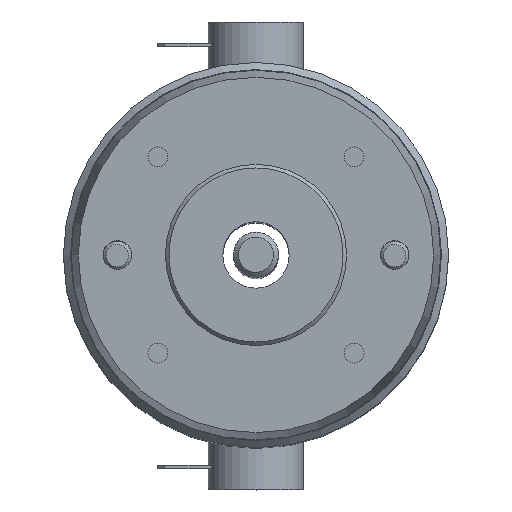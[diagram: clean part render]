
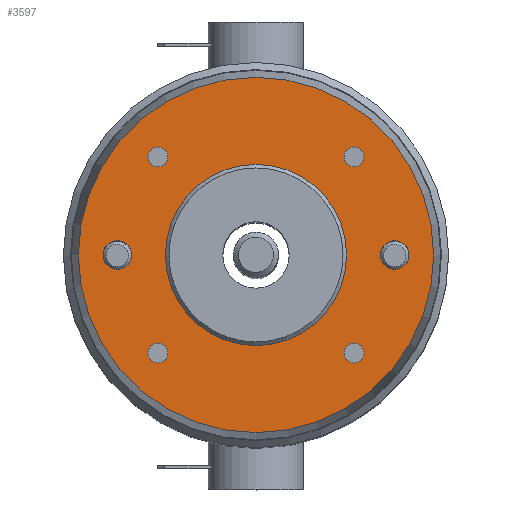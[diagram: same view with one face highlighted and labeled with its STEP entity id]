
A CAD part, top view. The second image highlights one B-rep face of the part: STEP entity #3597.
In plain terms, the highlighted planar face has unit normal (0, 0, 1).
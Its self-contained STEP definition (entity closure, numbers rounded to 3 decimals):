
#3320=CARTESIAN_POINT('',(-13.75,15.15,5.0));
#3321=VERTEX_POINT('',#3320);
#3322=CARTESIAN_POINT('',(-13.75,13.75,5.0));
#3323=DIRECTION('',(0.0,0.0,-1.0));
#3324=DIRECTION('',(0.0,1.0,0.0));
#3325=AXIS2_PLACEMENT_3D('',#3322,#3323,#3324);
#3326=CIRCLE('',#3325,1.4);
#3327=EDGE_CURVE('',#3321,#3321,#3326,.T.);
#3348=CARTESIAN_POINT('',(-15.15,-13.75,5.0));
#3349=VERTEX_POINT('',#3348);
#3350=CARTESIAN_POINT('',(-13.75,-13.75,5.0));
#3351=DIRECTION('',(0.0,0.0,-1.0));
#3352=DIRECTION('',(-1.0,0.0,0.0));
#3353=AXIS2_PLACEMENT_3D('',#3350,#3351,#3352);
#3354=CIRCLE('',#3353,1.4);
#3355=EDGE_CURVE('',#3349,#3349,#3354,.T.);
#3376=CARTESIAN_POINT('',(13.75,-15.15,5.0));
#3377=VERTEX_POINT('',#3376);
#3378=CARTESIAN_POINT('',(13.75,-13.75,5.0));
#3379=DIRECTION('',(0.0,0.0,-1.0));
#3380=DIRECTION('',(0.0,-1.0,0.0));
#3381=AXIS2_PLACEMENT_3D('',#3378,#3379,#3380);
#3382=CIRCLE('',#3381,1.4);
#3383=EDGE_CURVE('',#3377,#3377,#3382,.T.);
#3404=CARTESIAN_POINT('',(15.15,13.75,5.0));
#3405=VERTEX_POINT('',#3404);
#3406=CARTESIAN_POINT('',(13.75,13.75,5.0));
#3407=DIRECTION('',(0.0,0.0,-1.0));
#3408=DIRECTION('',(1.0,0.0,0.0));
#3409=AXIS2_PLACEMENT_3D('',#3406,#3407,#3408);
#3410=CIRCLE('',#3409,1.4);
#3411=EDGE_CURVE('',#3405,#3405,#3410,.T.);
#3432=CARTESIAN_POINT('',(21.445,0.,5.0));
#3433=VERTEX_POINT('',#3432);
#3434=CARTESIAN_POINT('',(19.445,0.0,5.0));
#3435=DIRECTION('',(0.0,0.0,-1.0));
#3436=DIRECTION('',(-1.0,0.0,0.0));
#3437=AXIS2_PLACEMENT_3D('',#3434,#3435,#3436);
#3438=CIRCLE('',#3437,2.0);
#3439=EDGE_CURVE('',#3433,#3433,#3438,.T.);
#3460=CARTESIAN_POINT('',(-17.445,0.,5.0));
#3461=VERTEX_POINT('',#3460);
#3462=CARTESIAN_POINT('',(-19.445,0.0,5.0));
#3463=DIRECTION('',(0.0,0.0,-1.0));
#3464=DIRECTION('',(-1.0,0.0,0.0));
#3465=AXIS2_PLACEMENT_3D('',#3462,#3463,#3464);
#3466=CIRCLE('',#3465,2.0);
#3467=EDGE_CURVE('',#3461,#3461,#3466,.T.);
#3533=CARTESIAN_POINT('',(12.7,0.,5.0));
#3534=VERTEX_POINT('',#3533);
#3535=CARTESIAN_POINT('',(0.0,0.0,5.0));
#3536=DIRECTION('',(0.0,0.0,-1.0));
#3537=DIRECTION('',(-1.0,0.0,0.0));
#3538=AXIS2_PLACEMENT_3D('',#3535,#3536,#3537);
#3539=CIRCLE('',#3538,12.7);
#3540=EDGE_CURVE('',#3534,#3534,#3539,.T.);
#3560=CARTESIAN_POINT('',(0.0,0.0,5.0));
#3561=DIRECTION('',(0.0,0.0,-1.0));
#3562=DIRECTION('',(-1.0,0.0,0.0));
#3563=AXIS2_PLACEMENT_3D('',#3560,#3561,#3562);
#3564=PLANE('',#3563);
#3565=CARTESIAN_POINT('',(-24.9,0.0,5.0));
#3566=VERTEX_POINT('',#3565);
#3567=CARTESIAN_POINT('',(0.0,0.0,5.0));
#3568=DIRECTION('',(0.0,0.0,-1.0));
#3569=DIRECTION('',(-1.0,0.0,0.0));
#3570=AXIS2_PLACEMENT_3D('',#3567,#3568,#3569);
#3571=CIRCLE('',#3570,24.9);
#3572=EDGE_CURVE('',#3566,#3566,#3571,.T.);
#3573=ORIENTED_EDGE('',*,*,#3572,.F.);
#3574=EDGE_LOOP('',(#3573));
#3575=FACE_OUTER_BOUND('',#3574,.T.);
#3576=ORIENTED_EDGE('',*,*,#3327,.T.);
#3577=EDGE_LOOP('',(#3576));
#3578=FACE_BOUND('',#3577,.T.);
#3579=ORIENTED_EDGE('',*,*,#3355,.T.);
#3580=EDGE_LOOP('',(#3579));
#3581=FACE_BOUND('',#3580,.T.);
#3582=ORIENTED_EDGE('',*,*,#3383,.T.);
#3583=EDGE_LOOP('',(#3582));
#3584=FACE_BOUND('',#3583,.T.);
#3585=ORIENTED_EDGE('',*,*,#3411,.T.);
#3586=EDGE_LOOP('',(#3585));
#3587=FACE_BOUND('',#3586,.T.);
#3588=ORIENTED_EDGE('',*,*,#3439,.T.);
#3589=EDGE_LOOP('',(#3588));
#3590=FACE_BOUND('',#3589,.T.);
#3591=ORIENTED_EDGE('',*,*,#3467,.T.);
#3592=EDGE_LOOP('',(#3591));
#3593=FACE_BOUND('',#3592,.T.);
#3594=ORIENTED_EDGE('',*,*,#3540,.T.);
#3595=EDGE_LOOP('',(#3594));
#3596=FACE_BOUND('',#3595,.T.);
#3597=ADVANCED_FACE('',(#3575,#3578,#3581,#3584,#3587,#3590,#3593,#3596),#3564,.F.);
